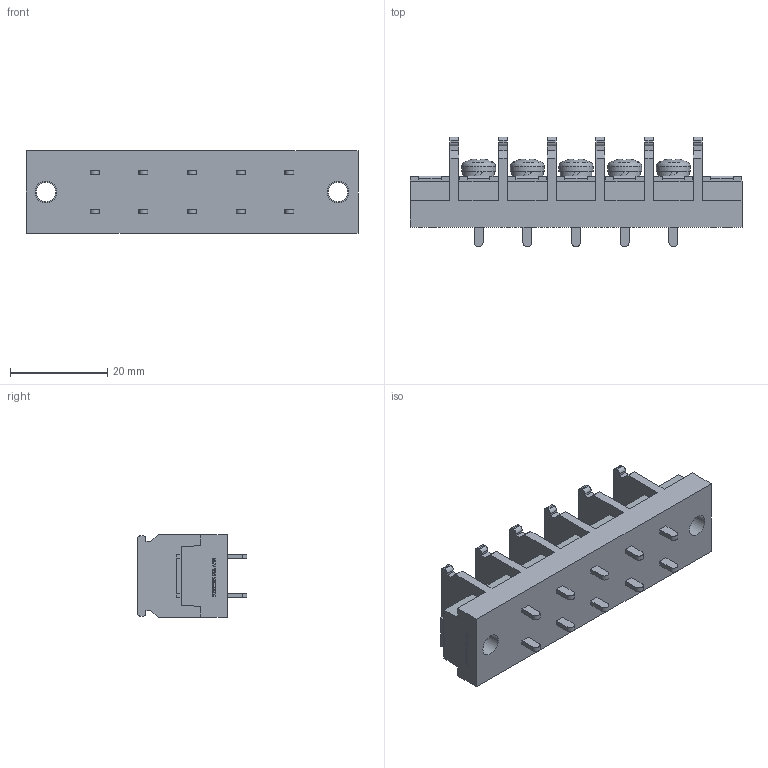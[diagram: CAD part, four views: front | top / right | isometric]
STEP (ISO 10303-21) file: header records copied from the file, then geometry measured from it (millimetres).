
FILE_DESCRIPTION(/* description */ ('Alibre Inc.'),/* implementation_level */ '2;1');
FILE_NAME(/* name */ 'export0',/* time_stamp */ '2015-10-17T15:44:59+09:00',/* author */ (''),/* organization */ (''),/* preprocessor_version */ 'ST-DEVELOPER v14',/* originating_system */ 'Alibre',/* authorisation */ '');
FILE_SCHEMA (('CONFIG_CONTROL_DESIGN'));
Length unit declared in the file: centimetre
Products named in the file (1): ID_1
Bounding box: 68.2 x 22.5 x 17 mm (x, y, z)
Volume: 12199.9 mm3; surface area: 7354.9 mm2
Topology: 1 solids, 17 shells, 804 faces, 2163 edges, 1437 vertices
Faces by surface type: plane 598, bspline 104, cylinder 67, cone 20, torus 10, sphere 5
Full cylindrical faces by diameter (mm): 4 x7, 4.5 x2, 6.5 x5, 7 x5
Entity records: 24330 total; most frequent: CARTESIAN_POINT 5428, ORIENTED_EDGE 4248, DIRECTION 2944, EDGE_CURVE 2124, VECTOR 1594, LINE 1594, VERTEX_POINT 1422, AXIS2_PLACEMENT_3D 964
